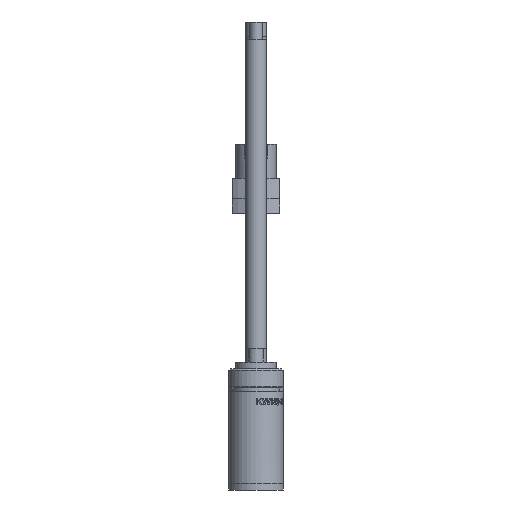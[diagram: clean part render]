
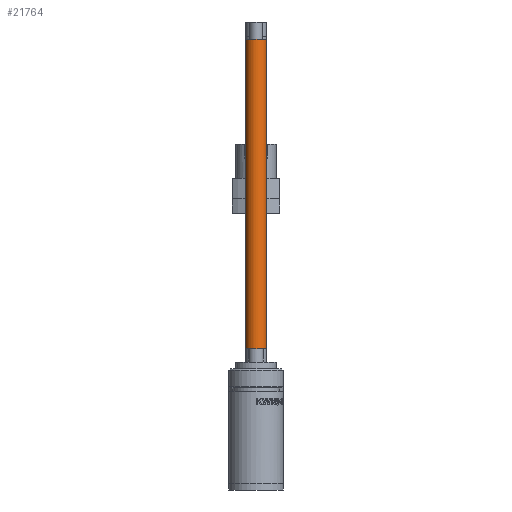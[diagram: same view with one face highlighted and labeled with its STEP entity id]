
A CAD part, left-side view. The second image highlights one B-rep face of the part: STEP entity #21764.
In plain terms, the highlighted cylindrical face has radius 1.5 mm (diameter 3 mm), a full revolution.
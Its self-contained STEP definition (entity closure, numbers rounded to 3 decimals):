
#21764=ADVANCED_FACE('',(#23579,#23580),#22250,.T.);
#22250=CYLINDRICAL_SURFACE('',#53005,1.5);
#23579=FACE_BOUND('',#26729,.T.);
#23580=FACE_BOUND('',#26730,.T.);
#26729=EDGE_LOOP('',(#37585));
#26730=EDGE_LOOP('',(#37586));
#37585=ORIENTED_EDGE('',*,*,#46835,.F.);
#37586=ORIENTED_EDGE('',*,*,#46834,.T.);
#41406=VERTEX_POINT('',#108533);
#41407=VERTEX_POINT('',#108536);
#46834=EDGE_CURVE('',#41406,#41406,#48145,.T.);
#46835=EDGE_CURVE('',#41407,#41407,#48146,.T.);
#48145=CIRCLE('',#53002,1.5);
#48146=CIRCLE('',#53004,1.5);
#53002=AXIS2_PLACEMENT_3D('',#108532,#60525,#60526);
#53004=AXIS2_PLACEMENT_3D('',#108535,#60529,#60530);
#53005=AXIS2_PLACEMENT_3D('',#108537,#60531,#60532);
#60525=DIRECTION('',(0.,0.,-1.));
#60526=DIRECTION('',(-1.,0.,0.));
#60529=DIRECTION('',(0.,0.,-1.));
#60530=DIRECTION('',(-1.,0.,0.));
#60531=DIRECTION('',(0.,0.,-1.));
#60532=DIRECTION('',(-1.,0.,0.));
#108532=CARTESIAN_POINT('',(-108.,0.,66.3));
#108533=CARTESIAN_POINT('',(-109.5,0.,66.3));
#108535=CARTESIAN_POINT('',(-108.,0.,20.8));
#108536=CARTESIAN_POINT('',(-109.5,0.,20.8));
#108537=CARTESIAN_POINT('',(-108.,0.,17.8));
